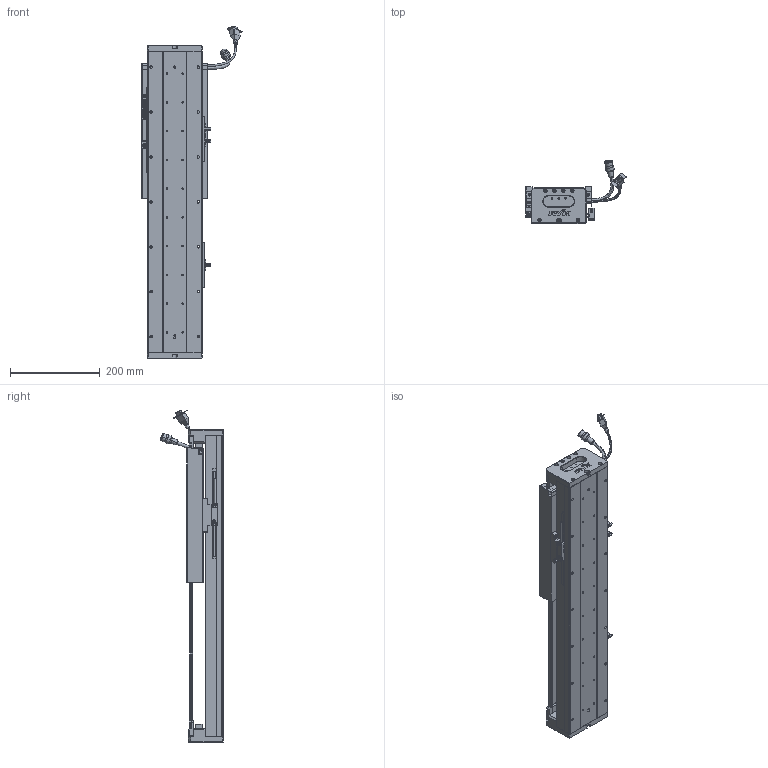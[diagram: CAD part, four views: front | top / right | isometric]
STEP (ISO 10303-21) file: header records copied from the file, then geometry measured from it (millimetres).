
FILE_DESCRIPTION (( 'STEP AP203' ), '1' );
FILE_NAME ('Z4-RY120D-1-L500-B-K.SLDASM_0300.step', '2021-05-17T06:05:52', ( '盈信电脑' ), ( '东莞市道滘镇水果街19号' ), 'SwSTEP 2.0', 'SolidWorks 2016', '' );
FILE_SCHEMA (( 'CONFIG_CONTROL_DESIGN' ));
Length unit declared in the file: millimetre
Products named in the file (37): PBU_SHEET; COVER-Part-1; HARNESS; SCREW-M1.7-1; RY100FB-遵嫖萇覜茼え; 080黍杅芛假蚾釱21遴; 榋妏寠巭燃_暯_M2_2; COVER; SCREW-M1.6-3; SEAL-Part-1; Z4-RY120D-1-L500-B-K.SLDASM_0300; 140雄赽晤鎢ん堤盄; 覜茼ん672; Z4-RY120-500-倰第菁釱_0300; SCREW-M1.7; SCREW-M1.6; Z-120詩湍傷裔啣; SCALE-Part-2; 672嫖萇羲壽假蚾釱; PSLH080_PSLF2; Z4-RY120铝滑块（21款）; SCREW-M1.6-2; HARNESS-Part-1; Z4-RY120-L500詩湍100mm遵_0300; SCREW-M1.6-1; SCALE-Part-1; HOLDER0; HARNESS-Part-2; SCALE; Z-RY120D詩湍奻揤裔; 120-Z-臏賑輸盄裔(21遴); LABEL-Part-1; SHIELDPLATE; Z-RY120D詩湍狟揤裔; SEAL; LABEL; 140蚥薯蝶輸
Assembly tree (43 placements, depth 4):
  Z4-RY120D-1-L500-B-K.SLDASM_0300
    Z4-RY120-500-倰第菁釱_0300
    覜茼ん672  x3
    672嫖萇羲壽假蚾釱  x2
    Z4-RY120铝滑块（21款）
    PSLH080_PSLF2
      SCALE
        SCALE-Part-1
        SCALE-Part-2
      HARNESS
        HARNESS-Part-1
        HARNESS-Part-2
      LABEL
        LABEL-Part-1
      COVER
        COVER-Part-1
      SEAL
        SEAL-Part-1
      榋妏寠巭燃_暯_M2_2
      SHIELDPLATE
      SCREW-M1.7
      SCREW-M1.7-1
      PBU_SHEET
      SCREW-M1.6
      SCREW-M1.6-1
      SCREW-M1.6-2
      SCREW-M1.6-3
      HOLDER0
    080黍杅芛假蚾釱21遴
    120-Z-臏賑輸盄裔(21遴)
    140雄赽晤鎢ん堤盄
    140蚥薯蝶輸  x2
    RY100FB-遵嫖萇覜茼え
    Z-120詩湍傷裔啣  x2
    Z-RY120D詩湍奻揤裔  x2
    Z-RY120D詩湍狟揤裔  x2
    Z4-RY120-L500詩湍100mm遵_0300
Bounding box: 222.88 x 140.94 x 739 mm (x, y, z)
Volume: 2559023.9 mm3; surface area: 796607.7 mm2
Topology: 38 solids, 38 shells, 2639 faces, 7016 edges, 4434 vertices
Faces by surface type: cylinder 1164, plane 1097, cone 256, torus 69, bspline 53
Entity records: 76751 total; most frequent: CARTESIAN_POINT 19538, DIRECTION 11100, ORIENTED_EDGE 11048, EDGE_CURVE 5524, AXIS2_PLACEMENT_3D 4052, VERTEX_POINT 3554, VECTOR 2996, LINE 2996
